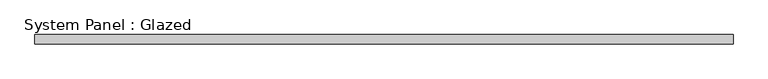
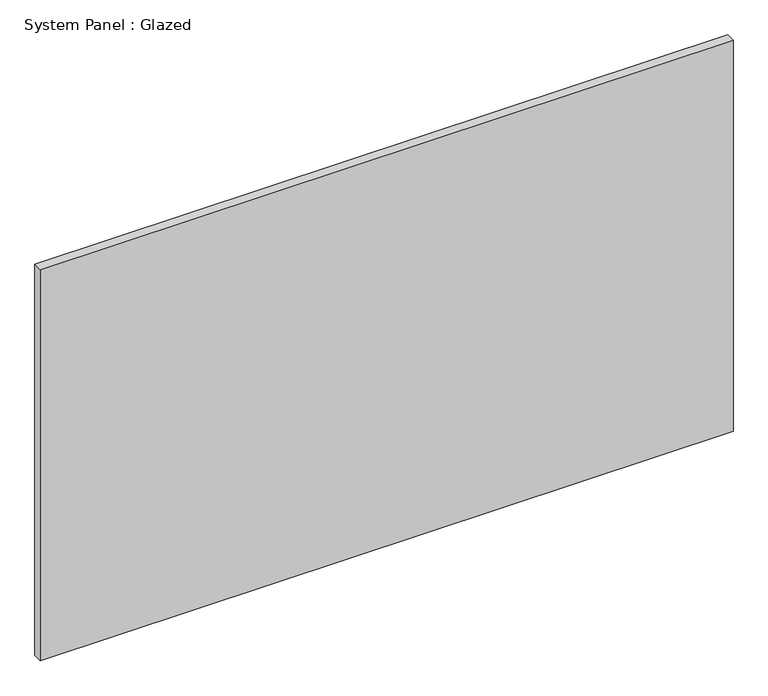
"""IFC4 building model written with IfcOpenShell, lengths in millimetres: plate geometry, System Panel : Glazed."""

from ifc_helpers import new_model, si_unit, origin, origin_with_axes, place, context, project, spatial, polyline, outline, extrude, source, transform, mapped, element, save


def system_panel_glazed_a2373be0(model_context):
    return source(origin(), model_context, "Body", "SweptSolid", [
        extrude(outline(polyline([(968.375, -44.45), (-968.375, -44.45), (-968.375, -19.05), (968.375, -19.05), (968.375, -44.45)])), origin_with_axes(), (0.0, 0.0, 1.0), 1155.7),
    ])


if __name__ == "__main__":
    model = new_model("IFC4")
    model_context = context("Model", 3, world=origin())
    ifc_project = project(units=[si_unit("LENGTHUNIT", "METRE", prefix="MILLI")], contexts=[model_context])
    site = spatial("IfcSite", under=ifc_project)
    building = spatial("IfcBuilding", under=site)
    placement = place(None, origin())
    system_panel_glazed_shape = system_panel_glazed_a2373be0(model_context)
    element("IfcPlate", 1, ObjectType="System Panel : Glazed", at=placement, inside=building, context=model_context, shape_type="MappedRepresentation", body=[
        mapped(system_panel_glazed_shape, transform((0.0, 0.0, 0.0), x_axis=(1.0, 0.0, 0.0), y_axis=(0.0, 1.0, 0.0), z_axis=(0.0, 0.0, 1.0))),
    ])
    save(model, "model.ifc")
